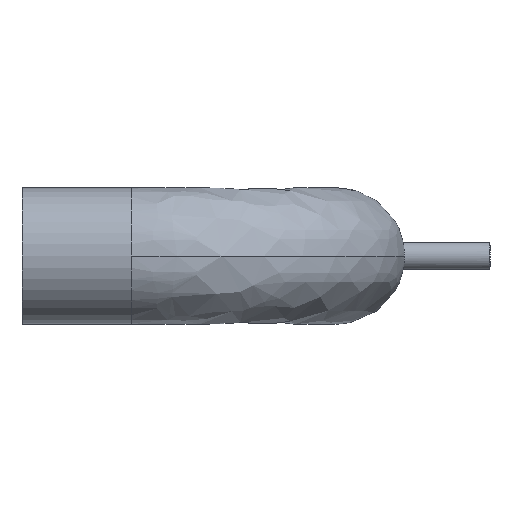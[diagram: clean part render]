
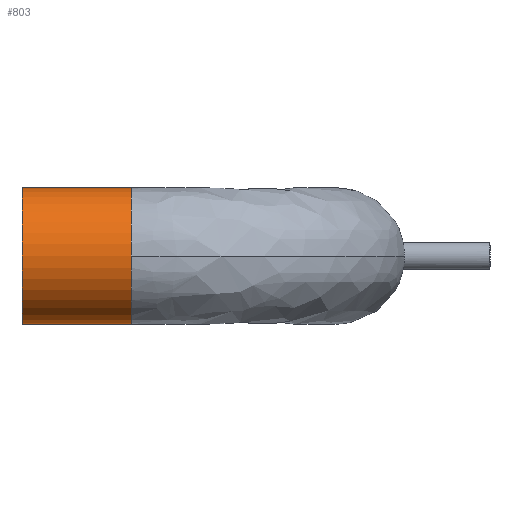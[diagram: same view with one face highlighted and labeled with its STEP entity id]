
A CAD part, left-side view. The second image highlights one B-rep face of the part: STEP entity #803.
In plain terms, the highlighted cylindrical face has radius 31.75 mm (diameter 63.5 mm), a partial arc.
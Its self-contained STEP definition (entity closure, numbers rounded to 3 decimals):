
#29 = DIRECTION ( 'NONE',  ( -1., 0., 0. ) ) ;
#45 = VERTEX_POINT ( 'NONE', #830 ) ;
#54 = VERTEX_POINT ( 'NONE', #528 ) ;
#97 = AXIS2_PLACEMENT_3D ( 'NONE', #277, #285, #221 ) ;
#119 = CARTESIAN_POINT ( 'NONE',  ( -95.25, 95.25, -31.75 ) ) ;
#137 = VERTEX_POINT ( 'NONE', #788 ) ;
#153 = AXIS2_PLACEMENT_3D ( 'NONE', #500, #431, #372 ) ;
#195 = FACE_OUTER_BOUND ( 'NONE', #820, .T. ) ;
#212 = DIRECTION ( 'NONE',  ( 0., 1., 0. ) ) ;
#217 = VERTEX_POINT ( 'NONE', #796 ) ;
#221 = DIRECTION ( 'NONE',  ( 0., 0., 1. ) ) ;
#235 = EDGE_CURVE ( 'NONE', #291, #217, #326, .T. ) ;
#237 = DIRECTION ( 'NONE',  ( 0., -1., 0. ) ) ;
#277 = CARTESIAN_POINT ( 'NONE',  ( -95.25, 95.25, 0. ) ) ;
#280 = CARTESIAN_POINT ( 'NONE',  ( -95.25, 95.25, 31.75 ) ) ;
#285 = DIRECTION ( 'NONE',  ( 0., 1., 0. ) ) ;
#291 = VERTEX_POINT ( 'NONE', #590 ) ;
#295 = CYLINDRICAL_SURFACE ( 'NONE', #97, 31.75 ) ;
#326 = CIRCLE ( 'NONE', #620, 31.75 ) ;
#343 = ORIENTED_EDGE ( 'NONE', *, *, #785, .F. ) ;
#352 = DIRECTION ( 'NONE',  ( 0., -1., 0. ) ) ;
#372 = DIRECTION ( 'NONE',  ( 0., 0., 1. ) ) ;
#389 = EDGE_CURVE ( 'NONE', #45, #54, #391, .T. ) ;
#391 = CIRCLE ( 'NONE', #153, 31.75 ) ;
#411 = ORIENTED_EDGE ( 'NONE', *, *, #389, .T. ) ;
#431 = DIRECTION ( 'NONE',  ( 0., -1., 0. ) ) ;
#435 = CARTESIAN_POINT ( 'NONE',  ( -95.25, 95.25, 0. ) ) ;
#444 = ORIENTED_EDGE ( 'NONE', *, *, #794, .T. ) ;
#465 = CIRCLE ( 'NONE', #650, 31.75 ) ;
#500 = CARTESIAN_POINT ( 'NONE',  ( -95.25, 146.1, 0. ) ) ;
#508 = VECTOR ( 'NONE', #874, 1000. ) ;
#519 = ORIENTED_EDGE ( 'NONE', *, *, #615, .F. ) ;
#528 = CARTESIAN_POINT ( 'NONE',  ( -95.25, 146.1, -31.75 ) ) ;
#590 = CARTESIAN_POINT ( 'NONE',  ( -95.25, 95.25, 31.75 ) ) ;
#615 = EDGE_CURVE ( 'NONE', #137, #54, #672, .T. ) ;
#620 = AXIS2_PLACEMENT_3D ( 'NONE', #435, #237, #29 ) ;
#650 = AXIS2_PLACEMENT_3D ( 'NONE', #745, #352, #815 ) ;
#672 = LINE ( 'NONE', #119, #508 ) ;
#687 = LINE ( 'NONE', #280, #828 ) ;
#745 = CARTESIAN_POINT ( 'NONE',  ( -95.25, 95.25, 0. ) ) ;
#776 = ORIENTED_EDGE ( 'NONE', *, *, #235, .F. ) ;
#785 = EDGE_CURVE ( 'NONE', #217, #137, #465, .T. ) ;
#788 = CARTESIAN_POINT ( 'NONE',  ( -95.25, 95.25, -31.75 ) ) ;
#794 = EDGE_CURVE ( 'NONE', #291, #45, #687, .T. ) ;
#796 = CARTESIAN_POINT ( 'NONE',  ( -127., 95.25, 0. ) ) ;
#803 = ADVANCED_FACE ( 'NONE', ( #195 ), #295, .T. ) ;
#815 = DIRECTION ( 'NONE',  ( -1., 0., 0. ) ) ;
#820 = EDGE_LOOP ( 'NONE', ( #519, #343, #776, #444, #411 ) ) ;
#828 = VECTOR ( 'NONE', #212, 1000. ) ;
#830 = CARTESIAN_POINT ( 'NONE',  ( -95.25, 146.1, 31.75 ) ) ;
#874 = DIRECTION ( 'NONE',  ( 0., 1., 0. ) ) ;
